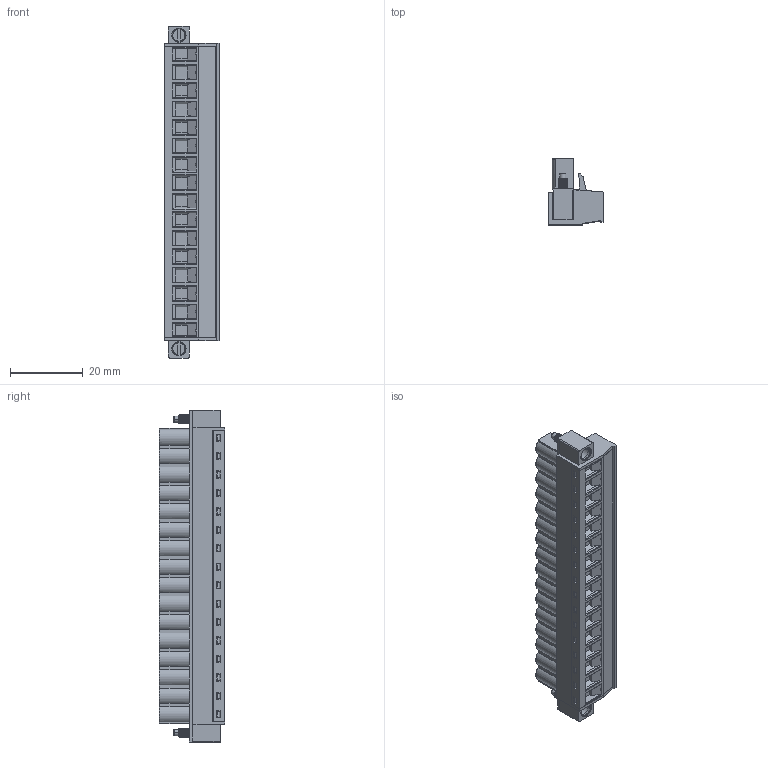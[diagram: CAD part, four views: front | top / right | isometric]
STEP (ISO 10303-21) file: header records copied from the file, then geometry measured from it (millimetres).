
FILE_DESCRIPTION(('Open CASCADE Model'),'2;1');
FILE_NAME('Open CASCADE Shape Model','2022-10-31T17:33:34',('Author'),( 'Open CASCADE'),'Open CASCADE STEP processor 6.5','Open CASCADE 6.5' ,'Unknown');
FILE_SCHEMA(('AUTOMOTIVE_DESIGN { 1 0 10303 214 1 1 1 1 }'));
Length unit declared in the file: millimetre
Products named in the file (2131): CADSOFTTOOLS 4; CADSOFTTOOLS 4.1; CADSOFTTOOLS 4.2; CADSOFTTOOLS 4.3; CADSOFTTOOLS 4.4; CADSOFTTOOLS 4.5; CADSOFTTOOLS 4.6; CADSOFTTOOLS 4.7; CADSOFTTOOLS 4.8; CADSOFTTOOLS 4.9; CADSOFTTOOLS 4.10; CADSOFTTOOLS 4.11; CADSOFTTOOLS 4.12; CADSOFTTOOLS 4.13; CADSOFTTOOLS 4.14; CADSOFTTOOLS 4.15; CADSOFTTOOLS 4.16; CADSOFTTOOLS 4.17; CADSOFTTOOLS 4.18; CADSOFTTOOLS 4.19; CADSOFTTOOLS 4.20; CADSOFTTOOLS 4.21; CADSOFTTOOLS 4.22; CADSOFTTOOLS 4.23; CADSOFTTOOLS 4.24; CADSOFTTOOLS 4.25; CADSOFTTOOLS 4.26; CADSOFTTOOLS 4.27; CADSOFTTOOLS 4.28; CADSOFTTOOLS 4.29; CADSOFTTOOLS 4.30; CADSOFTTOOLS 4.31; CADSOFTTOOLS 4.32; CADSOFTTOOLS 4.33; CADSOFTTOOLS 4.34; CADSOFTTOOLS 4.35; CADSOFTTOOLS 4.36; CADSOFTTOOLS 4.37; CADSOFTTOOLS 4.38; CADSOFTTOOLS 4.39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
Assembly tree (2130 placements, depth 2):
  CADSOFTTOOLS 4
    CADSOFTTOOLS 4.1
    CADSOFTTOOLS 4.2
    CADSOFTTOOLS 4.3
    CADSOFTTOOLS 4.4
    CADSOFTTOOLS 4.5
    CADSOFTTOOLS 4.6
    CADSOFTTOOLS 4.7
    CADSOFTTOOLS 4.8
    CADSOFTTOOLS 4.9
    CADSOFTTOOLS 4.10
    CADSOFTTOOLS 4.11
    CADSOFTTOOLS 4.12
    CADSOFTTOOLS 4.13
    CADSOFTTOOLS 4.14
    CADSOFTTOOLS 4.15
    CADSOFTTOOLS 4.16
    CADSOFTTOOLS 4.17
    CADSOFTTOOLS 4.18
    CADSOFTTOOLS 4.19
    CADSOFTTOOLS 4.20
    CADSOFTTOOLS 4.21
    CADSOFTTOOLS 4.22
    CADSOFTTOOLS 4.23
    CADSOFTTOOLS 4.24
    CADSOFTTOOLS 4.25
    CADSOFTTOOLS 4.26
    CADSOFTTOOLS 4.27
    CADSOFTTOOLS 4.28
    CADSOFTTOOLS 4.29
    CADSOFTTOOLS 4.30
    CADSOFTTOOLS 4.31
    CADSOFTTOOLS 4.32
    CADSOFTTOOLS 4.33
    CADSOFTTOOLS 4.34
    CADSOFTTOOLS 4.35
    CADSOFTTOOLS 4.36
    CADSOFTTOOLS 4.37
    CADSOFTTOOLS 4.38
    CADSOFTTOOLS 4.39
    CADSOFTTOOLS 4.40
    CADSOFTTOOLS 4.41
    CADSOFTTOOLS 4.42
    CADSOFTTOOLS 4.43
    CADSOFTTOOLS 4.44
    CADSOFTTOOLS 4.45
    CADSOFTTOOLS 4.46
    CADSOFTTOOLS 4.47
    CADSOFTTOOLS 4.48
    CADSOFTTOOLS 4.49
    CADSOFTTOOLS 4.50
    CADSOFTTOOLS 4.51
    CADSOFTTOOLS 4.52
    CADSOFTTOOLS 4.53
    CADSOFTTOOLS 4.54
    CADSOFTTOOLS 4.55
    CADSOFTTOOLS 4.56
    CADSOFTTOOLS 4.57
    CADSOFTTOOLS 4.58
    CADSOFTTOOLS 4.59
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Bounding box: 15.05 x 18.1 x 91.44 mm (x, y, z)
Surface area: 11305.7 mm2 (no closed solid volume)
Topology: 0 solids, 2130 shells, 2130 faces, 11600 edges, 11552 vertices
Faces by surface type: plane 1299, cylinder 527, cone 144, torus 92, sphere 48, bspline 20
Entity records: 296532 total; most frequent: CARTESIAN_POINT 110403, DIRECTION 29009, LINE 15001, VECTOR 15001, ORIENTED_EDGE 11552, EDGE_CURVE 11552, VERTEX_POINT 11552, SURFACE_CURVE 11552
